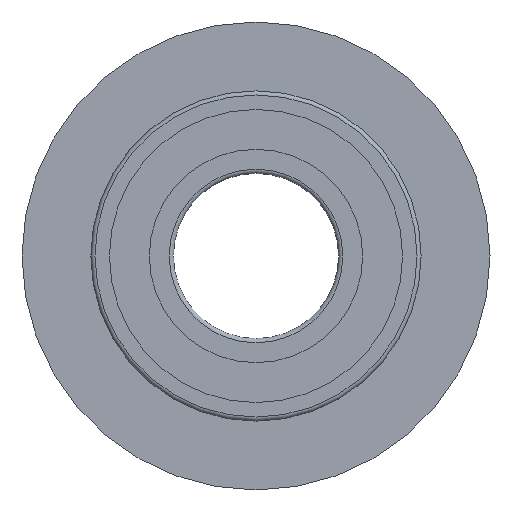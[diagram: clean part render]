
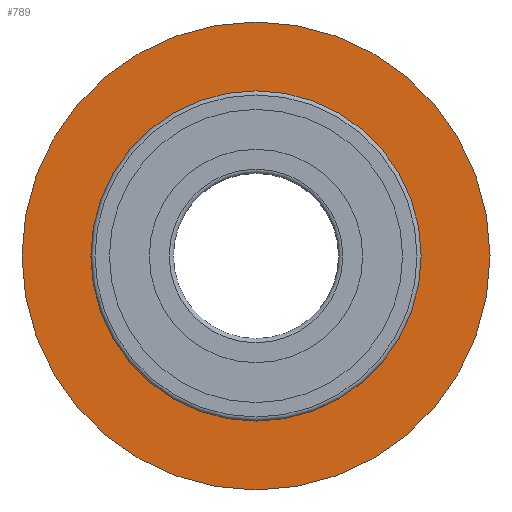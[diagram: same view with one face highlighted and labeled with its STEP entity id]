
A CAD part, left-side view. The second image highlights one B-rep face of the part: STEP entity #789.
In plain terms, the highlighted planar face has unit normal (-1, 0, 0).
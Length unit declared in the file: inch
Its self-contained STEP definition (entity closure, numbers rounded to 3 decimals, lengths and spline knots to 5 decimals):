
#762=CARTESIAN_POINT('',(113.41139,120.97152,0.));
#763=VERTEX_POINT('',#762);
#764=CARTESIAN_POINT('',(113.41139,112.47152,0.));
#765=DIRECTION('',(1.,0.,0.));
#766=DIRECTION('',(0.,1.,0.));
#767=AXIS2_PLACEMENT_3D('',#764,#765,#766);
#768=CIRCLE('',#767,8.5);
#769=EDGE_CURVE('',#763,#763,#768,.T.);
#770=ORIENTED_EDGE('',*,*,#769,.F.);
#771=EDGE_LOOP('',(#770));
#772=FACE_OUTER_BOUND('',#771,.T.);
#773=CARTESIAN_POINT('',(113.41139,118.47152,0.));
#774=VERTEX_POINT('',#773);
#775=CARTESIAN_POINT('',(113.41139,112.47152,0.));
#776=DIRECTION('',(1.,0.,0.));
#777=DIRECTION('',(0.,1.,0.));
#778=AXIS2_PLACEMENT_3D('',#775,#776,#777);
#779=CIRCLE('',#778,6.);
#780=EDGE_CURVE('',#774,#774,#779,.T.);
#781=ORIENTED_EDGE('',*,*,#780,.T.);
#782=EDGE_LOOP('',(#781));
#783=FACE_BOUND('',#782,.T.);
#784=CARTESIAN_POINT('',(113.41139,119.72152,0.));
#785=DIRECTION('',(-1.,0.,0.));
#786=DIRECTION('',(0.,-1.,0.));
#787=AXIS2_PLACEMENT_3D('',#784,#785,#786);
#788=PLANE('',#787);
#789=ADVANCED_FACE('',(#772,#783),#788,.T.);
